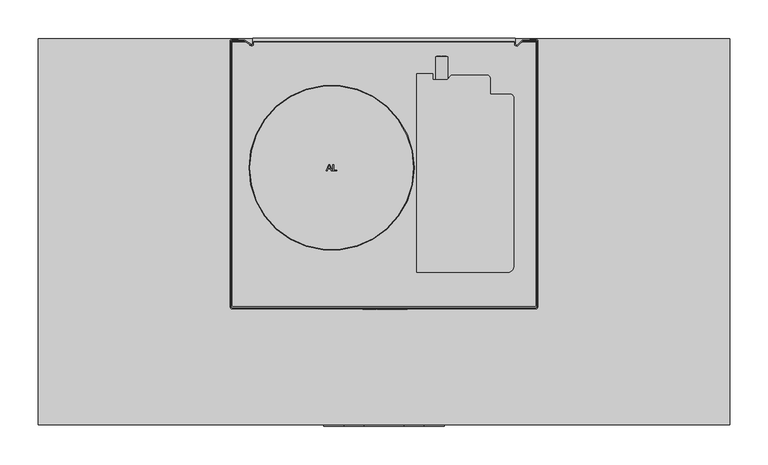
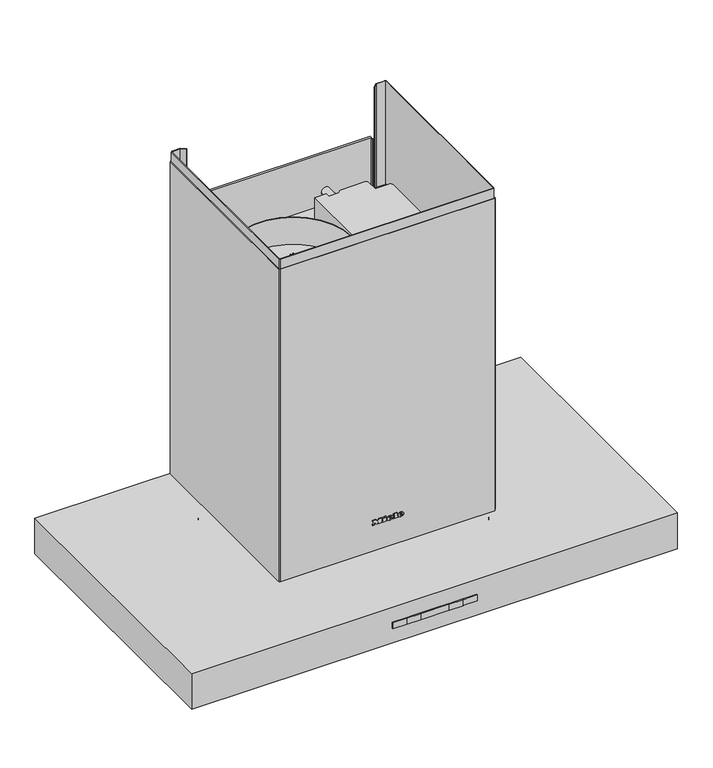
"""IFC4 building model written with IfcOpenShell, lengths in millimetres: proxy geometry, 12394330_CN_DA3984C_EDST : 28W3984S_CN_12394330_DA3984C_EDST."""

from ifc_helpers import new_model, si_unit, point, frame, frame_2d, origin, place, context, project, spatial, polyline, circle_curve, ellipse_curve, trimmed, segment, composite_curve, outline, extrude, faceted_brep, source, transform, mapped, element, save
from ifc_brep_helpers import plane_surface, cylinder_surface, revolved_surface, extruded_surface, advanced_brep


def specialty_equipment_1e91813d(model_context):
    return source(origin(), model_context, "Body", "SolidModel", [
        advanced_brep(
        [(23.6852279, -352.0, 168.4568113), (23.6852279, -352.0, 169.4163113), (30.0407279, -352.0, 169.4163113), (18.9827279, -352.0, 169.4163113), (21.5952279, -352.0, 166.2053113), (29.8792279, -352.0, 168.4568113), (27.0102279, -352.0, 168.4568113), (24.7492279, -352.0, 167.3928113), (23.6852279, -352.0, 170.6323113), (23.6852279, -352.0, 171.6678113), (25.3097279, -352.0, 171.6678113), (25.3097279, -352.0, 170.6323113), (23.6852279, -351.0, 168.4568113), (24.7492279, -351.0, 167.3928113), (27.0102279, -351.0, 168.4568113), (29.8792279, -351.0, 168.4568113), (21.5952279, -351.0, 166.2053113), (18.9827279, -351.0, 169.4163113), (30.0407279, -351.0, 169.4163113), (23.6852279, -351.0, 169.4163113), (23.6852279, -351.0, 170.6323113), (25.3097279, -351.0, 170.6323113), (25.3097279, -351.0, 171.6678113), (23.6852279, -351.0, 171.6678113)],
        [
            (0, 1),
            (1, 2),
            (2, 3, ellipse_curve(frame((24.5117279, -352.0, 169.4163113), z_axis=(0.0, -1.0, 0.0), x_axis=(-1.0, 0.0, 0.0)), 5.529, 4.5695)),
            (3, 4, circle_curve(frame((22.6592797, -352.0, 169.7393113), z_axis=(0.0, -1.0, 0.0), x_axis=(0.0, 0.0, -1.0)), 3.690713)),
            (4, 5, circle_curve(frame((24.4010453, -352.0, 172.2473113), z_axis=(0.0, -1.0, 0.0), x_axis=(0.0, 0.0, -1.0)), 6.6617096)),
            (5, 6),
            (6, 7, circle_curve(frame((25.2136102, -352.0, 169.3403113), z_axis=(0.0, 1.0, 0.0), x_axis=(0.0, 0.0, -1.0)), 2.0021007)),
            (7, 0, circle_curve(frame((24.7492279, -352.0, 168.4568113), z_axis=(0.0, 1.0, 0.0), x_axis=(0.0, 0.0, -1.0)), 1.064)),
            (8, 9),
            (9, 10, circle_curve(frame((24.4974779, -352.0, 171.6678113), z_axis=(0.0, 1.0, 0.0), x_axis=(0.0, 0.0, -1.0)), 0.81225)),
            (10, 11),
            (11, 8),
            (12, 13, circle_curve(frame((24.7492279, -351.0, 168.4568113), z_axis=(0.0, -1.0, 0.0), x_axis=(0.0, 0.0, -1.0)), 1.064)),
            (13, 14, circle_curve(frame((25.2136102, -351.0, 169.3403113), z_axis=(0.0, -1.0, 0.0), x_axis=(0.0, 0.0, -1.0)), 2.0021007)),
            (14, 15),
            (15, 16, circle_curve(frame((24.4010453, -351.0, 172.2473113), z_axis=(0.0, 1.0, 0.0), x_axis=(0.0, 0.0, -1.0)), 6.6617096)),
            (16, 17, circle_curve(frame((22.6592797, -351.0, 169.7393113), z_axis=(0.0, 1.0, 0.0), x_axis=(0.0, 0.0, -1.0)), 3.690713)),
            (17, 18, ellipse_curve(frame((24.5117279, -351.0, 169.4163113), z_axis=(0.0, 1.0, 0.0), x_axis=(-1.0, 0.0, 0.0)), 5.529, 4.5695)),
            (18, 19),
            (19, 12),
            (20, 21),
            (21, 22),
            (22, 23, circle_curve(frame((24.4974779, -351.0, 171.6678113), z_axis=(0.0, -1.0, 0.0), x_axis=(0.0, 0.0, -1.0)), 0.81225)),
            (23, 20),
            (0, 12),
            (19, 1),
            (18, 2),
            (5, 15),
            (14, 6),
            (17, 3),
            (13, 7),
            (16, 4),
            (8, 20),
            (23, 9),
            (22, 10),
            (21, 11),
        ],
        [
            plane_surface(frame((23.6852279, -352.0, 169.4163113), z_axis=(0.0, -1.0, 0.0), x_axis=(0.0, 0.0, 1.0))),
            plane_surface(frame((23.6852279, -351.0, 169.4163113), z_axis=(0.0, 1.0, 0.0), x_axis=(0.0, 0.0, -1.0))),
            plane_surface(frame((23.6852279, -352.0, 168.4568113), z_axis=(1.0, 0.0, 0.0), x_axis=(0.0, 1.0, 0.0))),
            plane_surface(frame((23.6852279, -352.0, 169.4163113), z_axis=(0.0, 0.0, -1.0), x_axis=(0.0, 1.0, 0.0))),
            plane_surface(frame((29.8792279, -352.0, 168.4568113), z_axis=(0.0, 0.0, 1.0), x_axis=(0.0, 1.0, 0.0))),
            extruded_surface(trimmed(ellipse_curve(frame((24.5117279, -350.0, 169.4163113), z_axis=(0.0, -1.0, 0.0), x_axis=(-1.0, 0.0, 0.0)), 5.529, 4.5695), [point((30.0407279, -350.0, 169.4163113))], [point((18.9827279, -350.0, 169.4163113))], True, "CARTESIAN"), (0.0, -1.0, 0.0), 1.0),
            revolved_surface(polyline([(25.2136102, -351.0, 167.3382106), (25.2136102, -352.0, 167.3382106)]), (25.2136102, -351.0, 169.3403113), (0.0, 1.0, 0.0)),
            revolved_surface(polyline([(24.7492279, -351.0, 167.3928113), (24.7492279, -352.0, 167.3928113)]), (24.7492279, -351.0, 168.4568113), (0.0, 1.0, 0.0)),
            cylinder_surface(frame((22.6592797, -351.0, 169.7393113), z_axis=(0.0, -1.0, 0.0), x_axis=(0.0, 0.0, -1.0)), 3.690713),
            cylinder_surface(frame((24.4010453, -351.0, 172.2473113), z_axis=(0.0, -1.0, 0.0), x_axis=(0.0, 0.0, -1.0)), 6.6617096),
            plane_surface(frame((23.6852279, -352.0, 170.6323113), z_axis=(1.0, 0.0, 0.0), x_axis=(0.0, 1.0, 0.0))),
            revolved_surface(polyline([(24.4974779, -351.0, 170.8555613), (24.4974779, -352.0, 170.8555613)]), (24.4974779, -351.0, 171.6678113), (0.0, 1.0, 0.0)),
            plane_surface(frame((25.3097279, -352.0, 171.6678113), z_axis=(-1.0, 0.0, 0.0), x_axis=(0.0, 1.0, 0.0))),
            plane_surface(frame((25.3097279, -352.0, 170.6323113), z_axis=(0.0, 0.0, 1.0), x_axis=(0.0, 1.0, 0.0))),
        ],
        [
            (0, [[1, 2, 3, 4, 5, 6, 7, 8], [9, 10, 11, 12]]),
            (1, [[13, 14, 15, 16, 17, 18, 19, 20], [21, 22, 23, 24]]),
            (2, [[-1, 25, -20, 26]]),
            (3, [[-2, -26, -19, 27]]),
            (4, [[-6, 28, -15, 29]]),
            (5, [[-3, -27, -18, 30]]),
            (6, [[-7, -29, -14, 31]]),
            (7, [[-8, -31, -13, -25]]),
            (8, [[-4, -30, -17, 32]]),
            (9, [[-5, -32, -16, -28]]),
            (10, [[-9, 33, -24, 34]]),
            (11, [[-10, -34, -23, 35]]),
            (12, [[-11, -35, -22, 36]]),
            (13, [[-12, -36, -21, -33]]),
        ],
    ),
        advanced_brep(
        [(3.8587279, -352.0, 168.4568113), (3.8587279, -352.0, 169.4163113), (10.2142279, -352.0, 169.4163113), (-0.8437721, -352.0, 169.4163113), (1.7687279, -352.0, 166.2053113), (10.0527279, -352.0, 168.4568113), (7.1837279, -352.0, 168.4568113), (4.9227279, -352.0, 167.3928113), (3.8587279, -352.0, 170.6323113), (3.8587279, -352.0, 171.6678113), (5.4832279, -352.0, 171.6678113), (5.4832279, -352.0, 170.6323113), (3.8587279, -351.0, 168.4568113), (4.9227279, -351.0, 167.3928113), (7.1837279, -351.0, 168.4568113), (10.0527279, -351.0, 168.4568113), (1.7687279, -351.0, 166.2053113), (-0.8437721, -351.0, 169.4163113), (10.2142279, -351.0, 169.4163113), (3.8587279, -351.0, 169.4163113), (3.8587279, -351.0, 170.6323113), (5.4832279, -351.0, 170.6323113), (5.4832279, -351.0, 171.6678113), (3.8587279, -351.0, 171.6678113)],
        [
            (0, 1),
            (1, 2),
            (2, 3, ellipse_curve(frame((4.6852279, -352.0, 169.4163113), z_axis=(0.0, -1.0, 0.0), x_axis=(-1.0, 0.0, 0.0)), 5.529, 4.5695)),
            (3, 4, circle_curve(frame((2.8327797, -352.0, 169.7393113), z_axis=(0.0, -1.0, 0.0), x_axis=(0.0, 0.0, -1.0)), 3.690713)),
            (4, 5, circle_curve(frame((4.5745453, -352.0, 172.2473113), z_axis=(0.0, -1.0, 0.0), x_axis=(0.0, 0.0, -1.0)), 6.6617096)),
            (5, 6),
            (6, 7, circle_curve(frame((5.3871102, -352.0, 169.3403113), z_axis=(0.0, 1.0, 0.0), x_axis=(0.0, 0.0, -1.0)), 2.0021007)),
            (7, 0, circle_curve(frame((4.9227279, -352.0, 168.4568113), z_axis=(0.0, 1.0, 0.0), x_axis=(0.0, 0.0, -1.0)), 1.064)),
            (8, 9),
            (9, 10, circle_curve(frame((4.6709779, -352.0, 171.6678113), z_axis=(0.0, 1.0, 0.0), x_axis=(0.0, 0.0, -1.0)), 0.81225)),
            (10, 11),
            (11, 8),
            (12, 13, circle_curve(frame((4.9227279, -351.0, 168.4568113), z_axis=(0.0, -1.0, 0.0), x_axis=(0.0, 0.0, -1.0)), 1.064)),
            (13, 14, circle_curve(frame((5.3871102, -351.0, 169.3403113), z_axis=(0.0, -1.0, 0.0), x_axis=(0.0, 0.0, -1.0)), 2.0021007)),
            (14, 15),
            (15, 16, circle_curve(frame((4.5745453, -351.0, 172.2473113), z_axis=(0.0, 1.0, 0.0), x_axis=(0.0, 0.0, -1.0)), 6.6617096)),
            (16, 17, circle_curve(frame((2.8327797, -351.0, 169.7393113), z_axis=(0.0, 1.0, 0.0), x_axis=(0.0, 0.0, -1.0)), 3.690713)),
            (17, 18, ellipse_curve(frame((4.6852279, -351.0, 169.4163113), z_axis=(0.0, 1.0, 0.0), x_axis=(-1.0, 0.0, 0.0)), 5.529, 4.5695)),
            (18, 19),
            (19, 12),
            (20, 21),
            (21, 22),
            (22, 23, circle_curve(frame((4.6709779, -351.0, 171.6678113), z_axis=(0.0, -1.0, 0.0), x_axis=(0.0, 0.0, -1.0)), 0.81225)),
            (23, 20),
            (0, 12),
            (19, 1),
            (18, 2),
            (5, 15),
            (14, 6),
            (17, 3),
            (13, 7),
            (16, 4),
            (8, 20),
            (23, 9),
            (22, 10),
            (21, 11),
        ],
        [
            plane_surface(frame((3.8587279, -352.0, 169.4163113), z_axis=(0.0, -1.0, 0.0), x_axis=(0.0, 0.0, 1.0))),
            plane_surface(frame((3.8587279, -351.0, 169.4163113), z_axis=(0.0, 1.0, 0.0), x_axis=(0.0, 0.0, -1.0))),
            plane_surface(frame((3.8587279, -352.0, 168.4568113), z_axis=(1.0, 0.0, 0.0), x_axis=(0.0, 1.0, 0.0))),
            plane_surface(frame((3.8587279, -352.0, 169.4163113), z_axis=(0.0, 0.0, -1.0), x_axis=(0.0, 1.0, 0.0))),
            plane_surface(frame((10.0527279, -352.0, 168.4568113), z_axis=(0.0, 0.0, 1.0), x_axis=(0.0, 1.0, 0.0))),
            extruded_surface(trimmed(ellipse_curve(frame((4.6852279, -350.0, 169.4163113), z_axis=(0.0, -1.0, 0.0), x_axis=(-1.0, 0.0, 0.0)), 5.529, 4.5695), [point((10.2142279, -350.0, 169.4163113))], [point((-0.8437721, -350.0, 169.4163113))], True, "CARTESIAN"), (0.0, -1.0, 0.0), 1.0),
            revolved_surface(polyline([(5.3871102, -351.0, 167.3382106), (5.3871102, -352.0, 167.3382106)]), (5.3871102, -351.0, 169.3403113), (0.0, 1.0, 0.0)),
            revolved_surface(polyline([(4.9227279, -351.0, 167.3928113), (4.9227279, -352.0, 167.3928113)]), (4.9227279, -351.0, 168.4568113), (0.0, 1.0, 0.0)),
            cylinder_surface(frame((2.8327797, -351.0, 169.7393113), z_axis=(0.0, -1.0, 0.0), x_axis=(0.0, 0.0, -1.0)), 3.690713),
            cylinder_surface(frame((4.5745453, -351.0, 172.2473113), z_axis=(0.0, -1.0, 0.0), x_axis=(0.0, 0.0, -1.0)), 6.6617096),
            plane_surface(frame((3.8587279, -352.0, 170.6323113), z_axis=(1.0, 0.0, 0.0), x_axis=(0.0, 1.0, 0.0))),
            revolved_surface(polyline([(4.6709779, -351.0, 170.8555613), (4.6709779, -352.0, 170.8555613)]), (4.6709779, -351.0, 171.6678113), (0.0, 1.0, 0.0)),
            plane_surface(frame((5.4832279, -352.0, 171.6678113), z_axis=(-1.0, 0.0, 0.0), x_axis=(0.0, 1.0, 0.0))),
            plane_surface(frame((5.4832279, -352.0, 170.6323113), z_axis=(0.0, 0.0, 1.0), x_axis=(0.0, 1.0, 0.0))),
        ],
        [
            (0, [[1, 2, 3, 4, 5, 6, 7, 8], [9, 10, 11, 12]]),
            (1, [[13, 14, 15, 16, 17, 18, 19, 20], [21, 22, 23, 24]]),
            (2, [[-1, 25, -20, 26]]),
            (3, [[-2, -26, -19, 27]]),
            (4, [[-6, 28, -15, 29]]),
            (5, [[-3, -27, -18, 30]]),
            (6, [[-7, -29, -14, 31]]),
            (7, [[-8, -31, -13, -25]]),
            (8, [[-4, -30, -17, 32]]),
            (9, [[-5, -32, -16, -28]]),
            (10, [[-9, 33, -24, 34]]),
            (11, [[-10, -34, -23, 35]]),
            (12, [[-11, -35, -22, 36]]),
            (13, [[-12, -36, -21, -33]]),
        ],
    ),
        extrude(outline(polyline([(175.1448113, -6.5247721), (173.6058113, -5.8027721), (175.1068113, -2.5822721), (176.6458113, -3.2947721), (175.1448113, -6.5247721)])), frame((0.0, -352.0, 0.0), z_axis=(0.0, 1.0, 0.0), x_axis=(0.0, 0.0, 1.0)), (0.0, 0.0, 1.0), 1.0),
        extrude(outline(polyline([(173.3968113, -8.8712721), (171.6963113, -8.8712721), (171.6963113, -7.7407721), (167.8013113, -7.7407721), (167.8013113, -8.8712721), (166.2053113, -8.8712721), (166.2053113, -1.3757721), (167.8013113, -1.3757721), (167.8013113, -2.4777721), (173.3968113, -2.4777721), (173.3968113, -8.8712721)])), frame((0.0, -352.0, 0.0), z_axis=(0.0, 1.0, 0.0), x_axis=(0.0, 0.0, 1.0)), (0.0, 0.0, 1.0), 1.0),
        extrude(outline(polyline([(174.1568113, 10.7462279), (174.1568113, 11.8862279), (167.8013113, 11.8862279), (167.8013113, 10.7462279), (166.2053113, 10.7462279), (166.2053113, 18.4507279), (167.8013113, 18.4507279), (167.8013113, 17.2822279), (175.7053113, 17.2822279), (175.7053113, 10.7462279), (174.1568113, 10.7462279)])), frame((0.0, -352.0, 0.0), z_axis=(0.0, 1.0, 0.0), x_axis=(0.0, 0.0, 1.0)), (0.0, 0.0, 1.0), 1.0),
        extrude(outline(polyline([(174.1568113, -27.8047721), (174.1568113, -26.6552721), (167.8013113, -26.6552721), (167.8013113, -27.8047721), (166.2053113, -27.8047721), (166.2053113, -23.6247721), (167.8013113, -23.6247721), (167.8013113, -24.7647721), (171.832936, -24.7647721), (166.2053113, -20.5182721), (171.9580336, -16.2527721), (167.8013113, -16.2527721), (167.8013113, -17.4212721), (166.2053113, -17.4212721), (166.2053113, -9.8402721), (167.8013113, -9.8402721), (167.8013113, -11.0467721), (174.1568113, -11.0467721), (174.1568113, -9.8402721), (175.7053113, -9.8402721), (175.7053113, -15.6257721), (172.1428113, -18.3997721), (175.7053113, -21.1832721), (175.7053113, -27.8047721), (174.1568113, -27.8047721)])), frame((0.0, -352.0, 0.0), z_axis=(0.0, 1.0, 0.0), x_axis=(0.0, 0.0, 1.0)), (0.0, 0.0, 1.0), 1.0),
        advanced_brep(
        [(18.9305092, -47.3306759, 18.5939288), (18.9305092, -47.7346759, 19.2936773), (24.2825092, -47.7346759, 19.2936773), (14.9705092, -47.7346759, 19.2936773), (17.1705092, -46.3826759, 16.9519447), (24.1465092, -47.3306759, 18.5939288), (21.7305092, -47.3306759, 18.5939288), (19.8265092, -46.8826759, 17.8179701), (18.9305092, -48.2466759, 20.1804874), (18.9305092, -48.6826759, 20.9356615), (20.2985092, -48.6826759, 20.9356615), (20.2985092, -48.2466759, 20.1804874), (18.9305092, -46.4646505, 19.0939288), (19.8265092, -46.0166505, 18.3179701), (21.7305092, -46.4646505, 19.0939288), (24.1465092, -46.4646505, 19.0939288), (17.1705092, -45.5166505, 17.4519447), (14.9705092, -46.8686505, 19.7936773), (24.2825092, -46.8686505, 19.7936773), (18.9305092, -46.8686505, 19.7936773), (18.9305092, -47.3806505, 20.6804874), (20.2985092, -47.3806505, 20.6804874), (20.2985092, -47.8166505, 21.4356615), (18.9305092, -47.8166505, 21.4356615)],
        [
            (0, 1),
            (1, 2),
            (2, 3, ellipse_curve(frame((19.6265092, -47.7346759, 19.2936773), z_axis=(0.0, -0.8660254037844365, -0.5000000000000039), x_axis=(-1.0, 0.0, 0.0)), 4.656, 3.848)),
            (3, 4, circle_curve(frame((18.0665529, -47.8706759, 19.5292363), z_axis=(0.0, -0.8660254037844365, -0.5000000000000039), x_axis=(0.0, 0.5000000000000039, -0.8660254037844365)), 3.1079688)),
            (4, 5, circle_curve(frame((19.5333028, -48.9266759, 21.3582819), z_axis=(0.0, -0.8660254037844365, -0.5000000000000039), x_axis=(0.0, 0.5000000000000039, -0.8660254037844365)), 5.6098607)),
            (5, 6),
            (6, 7, circle_curve(frame((20.217568, -47.7026759, 19.2382517), z_axis=(0.0, 0.8660254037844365, 0.5000000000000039), x_axis=(0.0, 0.5000000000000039, -0.8660254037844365)), 1.6859795)),
            (7, 0, circle_curve(frame((19.8265092, -47.3306759, 18.5939288), z_axis=(0.0, 0.8660254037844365, 0.5000000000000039), x_axis=(0.0, 0.5000000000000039, -0.8660254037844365)), 0.896)),
            (8, 9),
            (9, 10, circle_curve(frame((19.6145092, -48.6826759, 20.9356615), z_axis=(0.0, 0.8660254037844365, 0.5000000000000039), x_axis=(0.0, 0.5000000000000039, -0.8660254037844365)), 0.684)),
            (10, 11),
            (11, 8),
            (12, 13, circle_curve(frame((19.8265092, -46.4646505, 19.0939288), z_axis=(0.0, -0.8660254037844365, -0.5000000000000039), x_axis=(0.0, 0.5000000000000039, -0.8660254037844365)), 0.896)),
            (13, 14, circle_curve(frame((20.217568, -46.8366505, 19.7382517), z_axis=(0.0, -0.8660254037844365, -0.5000000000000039), x_axis=(0.0, 0.5000000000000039, -0.8660254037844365)), 1.6859795)),
            (14, 15),
            (15, 16, circle_curve(frame((19.5333028, -48.0606505, 21.8582819), z_axis=(0.0, 0.8660254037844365, 0.5000000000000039), x_axis=(0.0, 0.5000000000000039, -0.8660254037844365)), 5.6098607)),
            (16, 17, circle_curve(frame((18.0665529, -47.0046505, 20.0292363), z_axis=(0.0, 0.8660254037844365, 0.5000000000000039), x_axis=(0.0, 0.5000000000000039, -0.8660254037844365)), 3.1079688)),
            (17, 18, ellipse_curve(frame((19.6265092, -46.8686505, 19.7936773), z_axis=(0.0, 0.8660254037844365, 0.5000000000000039), x_axis=(-1.0, 0.0, 0.0)), 4.656, 3.848)),
            (18, 19),
            (19, 12),
            (20, 21),
            (21, 22),
            (22, 23, circle_curve(frame((19.6145092, -47.8166505, 21.4356615), z_axis=(0.0, -0.8660254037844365, -0.5000000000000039), x_axis=(0.0, 0.5000000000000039, -0.8660254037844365)), 0.684)),
            (23, 20),
            (0, 12),
            (19, 1),
            (18, 2),
            (5, 15),
            (14, 6),
            (17, 3),
            (13, 7),
            (16, 4),
            (8, 20),
            (23, 9),
            (22, 10),
            (21, 11),
        ],
        [
            plane_surface(frame((18.9305092, -47.7346759, 19.2936773), z_axis=(0.0, -0.8660254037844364, -0.5000000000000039), x_axis=(0.0, -0.5000000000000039, 0.8660254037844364))),
            plane_surface(frame((18.9305092, -46.8686505, 19.7936773), z_axis=(0.0, 0.8660254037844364, 0.5000000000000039), x_axis=(0.0, 0.5000000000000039, -0.8660254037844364))),
            plane_surface(frame((18.9305092, -47.3306759, 18.5939288), z_axis=(1.0, 0.0, 0.0), x_axis=(0.0, 0.866025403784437, 0.5000000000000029))),
            plane_surface(frame((18.9305092, -47.7346759, 19.2936773), z_axis=(0.0, 0.5000000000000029, -0.866025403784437), x_axis=(0.0, 0.866025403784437, 0.5000000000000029))),
            plane_surface(frame((24.1465092, -47.3306759, 18.5939288), z_axis=(0.0, -0.5000000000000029, 0.866025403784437), x_axis=(0.0, 0.866025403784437, 0.5000000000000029))),
            extruded_surface(trimmed(ellipse_curve(frame((19.6265092, -46.0026251, 20.2936773), z_axis=(0.0, -0.8660254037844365, -0.5000000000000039), x_axis=(-1.0, 0.0, 0.0)), 4.656, 3.848), [point((24.2825092, -46.0026251, 20.2936773))], [point((14.9705092, -46.0026251, 20.2936773))], True, "CARTESIAN"), (0.0, -0.8660253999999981, -0.5), 0.9999999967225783),
            revolved_surface(polyline([(20.217568, -45.9936607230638, 18.278150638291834), (20.217568, -46.859686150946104, 17.77815062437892)]), (20.217568, -46.8366505, 19.7382517), (0.0, 0.8660254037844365, 0.5000000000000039)),
            revolved_surface(polyline([(19.8265092, -46.01665047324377, 18.317970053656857), (19.8265092, -46.88267590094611, 17.81797003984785)]), (19.8265092, -46.4646505, 19.0939288), (0.0, 0.8660254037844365, 0.5000000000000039)),
            cylinder_surface(frame((18.0665529, -47.0046505, 20.0292363), z_axis=(0.0, -0.8660254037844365, -0.5000000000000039), x_axis=(0.0, 0.5000000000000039, -0.8660254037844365)), 3.1079688),
            cylinder_surface(frame((19.5333028, -48.0606505, 21.8582819), z_axis=(0.0, -0.8660254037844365, -0.5000000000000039), x_axis=(0.0, 0.5000000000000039, -0.8660254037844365)), 5.6098607),
            plane_surface(frame((18.9305092, -48.2466759, 20.1804874), z_axis=(1.0, 0.0, 0.0), x_axis=(0.0, 0.8660254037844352, 0.500000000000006))),
            revolved_surface(polyline([(19.6145092, -47.474650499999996, 20.843300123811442), (19.6145092, -48.3406759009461, 20.34330012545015)]), (19.6145092, -47.8166505, 21.4356615), (0.0, 0.8660254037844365, 0.5000000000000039)),
            plane_surface(frame((20.2985092, -48.6826759, 20.9356615), z_axis=(-1.0, 0.0, 0.0), x_axis=(0.0, 0.8660254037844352, 0.500000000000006))),
            plane_surface(frame((20.2985092, -48.2466759, 20.1804874), z_axis=(0.0, -0.500000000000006, 0.8660254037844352), x_axis=(0.0, 0.8660254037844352, 0.500000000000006))),
        ],
        [
            (0, [[1, 2, 3, 4, 5, 6, 7, 8], [9, 10, 11, 12]]),
            (1, [[13, 14, 15, 16, 17, 18, 19, 20], [21, 22, 23, 24]]),
            (2, [[-1, 25, -20, 26]]),
            (3, [[-2, -26, -19, 27]]),
            (4, [[-6, 28, -15, 29]]),
            (5, [[-3, -27, -18, 30]]),
            (6, [[-7, -29, -14, 31]]),
            (7, [[-8, -31, -13, -25]]),
            (8, [[-4, -30, -17, 32]]),
            (9, [[-5, -32, -16, -28]]),
            (10, [[-9, 33, -24, 34]]),
            (11, [[-10, -34, -23, 35]]),
            (12, [[-11, -35, -22, 36]]),
            (13, [[-12, -36, -21, -33]]),
        ],
    ),
        advanced_brep(
        [(2.2345092, -47.3306759, 18.5939288), (2.2345092, -47.7346759, 19.2936773), (7.5865092, -47.7346759, 19.2936773), (-1.7254908, -47.7346759, 19.2936773), (0.4745092, -46.3826759, 16.9519447), (7.4505092, -47.3306759, 18.5939288), (5.0345092, -47.3306759, 18.5939288), (3.1305092, -46.8826759, 17.8179701), (2.2345092, -48.2466759, 20.1804874), (2.2345092, -48.6826759, 20.9356615), (3.6025092, -48.6826759, 20.9356615), (3.6025092, -48.2466759, 20.1804874), (2.2345092, -46.4646505, 19.0939288), (3.1305092, -46.0166505, 18.3179701), (5.0345092, -46.4646505, 19.0939288), (7.4505092, -46.4646505, 19.0939288), (0.4745092, -45.5166505, 17.4519447), (-1.7254908, -46.8686505, 19.7936773), (7.5865092, -46.8686505, 19.7936773), (2.2345092, -46.8686505, 19.7936773), (2.2345092, -47.3806505, 20.6804874), (3.6025092, -47.3806505, 20.6804874), (3.6025092, -47.8166505, 21.4356615), (2.2345092, -47.8166505, 21.4356615)],
        [
            (0, 1),
            (1, 2),
            (2, 3, ellipse_curve(frame((2.9305092, -47.7346759, 19.2936773), z_axis=(0.0, -0.8660254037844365, -0.5000000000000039), x_axis=(-1.0, 0.0, 0.0)), 4.656, 3.848)),
            (3, 4, circle_curve(frame((1.3705529, -47.8706759, 19.5292363), z_axis=(0.0, -0.8660254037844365, -0.5000000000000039), x_axis=(0.0, 0.5000000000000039, -0.8660254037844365)), 3.1079688)),
            (4, 5, circle_curve(frame((2.8373028, -48.9266759, 21.3582819), z_axis=(0.0, -0.8660254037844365, -0.5000000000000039), x_axis=(0.0, 0.5000000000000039, -0.8660254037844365)), 5.6098607)),
            (5, 6),
            (6, 7, circle_curve(frame((3.521568, -47.7026759, 19.2382517), z_axis=(0.0, 0.8660254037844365, 0.5000000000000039), x_axis=(0.0, 0.5000000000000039, -0.8660254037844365)), 1.6859795)),
            (7, 0, circle_curve(frame((3.1305092, -47.3306759, 18.5939288), z_axis=(0.0, 0.8660254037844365, 0.5000000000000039), x_axis=(0.0, 0.5000000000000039, -0.8660254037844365)), 0.896)),
            (8, 9),
            (9, 10, circle_curve(frame((2.9185092, -48.6826759, 20.9356615), z_axis=(0.0, 0.8660254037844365, 0.5000000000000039), x_axis=(0.0, 0.5000000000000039, -0.8660254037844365)), 0.684)),
            (10, 11),
            (11, 8),
            (12, 13, circle_curve(frame((3.1305092, -46.4646505, 19.0939288), z_axis=(0.0, -0.8660254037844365, -0.5000000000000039), x_axis=(0.0, 0.5000000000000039, -0.8660254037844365)), 0.896)),
            (13, 14, circle_curve(frame((3.521568, -46.8366505, 19.7382517), z_axis=(0.0, -0.8660254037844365, -0.5000000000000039), x_axis=(0.0, 0.5000000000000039, -0.8660254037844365)), 1.6859795)),
            (14, 15),
            (15, 16, circle_curve(frame((2.8373028, -48.0606505, 21.8582819), z_axis=(0.0, 0.8660254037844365, 0.5000000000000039), x_axis=(0.0, 0.5000000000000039, -0.8660254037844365)), 5.6098607)),
            (16, 17, circle_curve(frame((1.3705529, -47.0046505, 20.0292363), z_axis=(0.0, 0.8660254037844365, 0.5000000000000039), x_axis=(0.0, 0.5000000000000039, -0.8660254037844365)), 3.1079688)),
            (17, 18, ellipse_curve(frame((2.9305092, -46.8686505, 19.7936773), z_axis=(0.0, 0.8660254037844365, 0.5000000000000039), x_axis=(-1.0, 0.0, 0.0)), 4.656, 3.848)),
            (18, 19),
            (19, 12),
            (20, 21),
            (21, 22),
            (22, 23, circle_curve(frame((2.9185092, -47.8166505, 21.4356615), z_axis=(0.0, -0.8660254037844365, -0.5000000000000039), x_axis=(0.0, 0.5000000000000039, -0.8660254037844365)), 0.684)),
            (23, 20),
            (0, 12),
            (19, 1),
            (18, 2),
            (5, 15),
            (14, 6),
            (17, 3),
            (13, 7),
            (16, 4),
            (8, 20),
            (23, 9),
            (22, 10),
            (21, 11),
        ],
        [
            plane_surface(frame((2.2345092, -47.7346759, 19.2936773), z_axis=(0.0, -0.8660254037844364, -0.5000000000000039), x_axis=(0.0, -0.5000000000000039, 0.8660254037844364))),
            plane_surface(frame((2.2345092, -46.8686505, 19.7936773), z_axis=(0.0, 0.8660254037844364, 0.5000000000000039), x_axis=(0.0, 0.5000000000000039, -0.8660254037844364))),
            plane_surface(frame((2.2345092, -47.3306759, 18.5939288), z_axis=(1.0, 0.0, 0.0), x_axis=(0.0, 0.866025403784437, 0.5000000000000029))),
            plane_surface(frame((2.2345092, -47.7346759, 19.2936773), z_axis=(0.0, 0.5000000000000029, -0.866025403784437), x_axis=(0.0, 0.866025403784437, 0.5000000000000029))),
            plane_surface(frame((7.4505092, -47.3306759, 18.5939288), z_axis=(0.0, -0.5000000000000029, 0.866025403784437), x_axis=(0.0, 0.866025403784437, 0.5000000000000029))),
            extruded_surface(trimmed(ellipse_curve(frame((2.9305092, -46.0026251, 20.2936773), z_axis=(0.0, -0.8660254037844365, -0.5000000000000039), x_axis=(-1.0, 0.0, 0.0)), 4.656, 3.848), [point((7.5865092, -46.0026251, 20.2936773))], [point((-1.7254908, -46.0026251, 20.2936773))], True, "CARTESIAN"), (0.0, -0.8660253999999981, -0.5), 0.9999999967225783),
            revolved_surface(polyline([(3.521568, -45.9936607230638, 18.278150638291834), (3.521568, -46.859686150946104, 17.77815062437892)]), (3.521568, -46.8366505, 19.7382517), (0.0, 0.8660254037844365, 0.5000000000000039)),
            revolved_surface(polyline([(3.1305092, -46.01665047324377, 18.317970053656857), (3.1305092, -46.88267590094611, 17.81797003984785)]), (3.1305092, -46.4646505, 19.0939288), (0.0, 0.8660254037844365, 0.5000000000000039)),
            cylinder_surface(frame((1.3705529, -47.0046505, 20.0292363), z_axis=(0.0, -0.8660254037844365, -0.5000000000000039), x_axis=(0.0, 0.5000000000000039, -0.8660254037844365)), 3.1079688),
            cylinder_surface(frame((2.8373028, -48.0606505, 21.8582819), z_axis=(0.0, -0.8660254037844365, -0.5000000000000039), x_axis=(0.0, 0.5000000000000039, -0.8660254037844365)), 5.6098607),
            plane_surface(frame((2.2345092, -48.2466759, 20.1804874), z_axis=(1.0, 0.0, 0.0), x_axis=(0.0, 0.8660254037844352, 0.500000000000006))),
            revolved_surface(polyline([(2.9185092, -47.474650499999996, 20.843300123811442), (2.9185092, -48.3406759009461, 20.34330012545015)]), (2.9185092, -47.8166505, 21.4356615), (0.0, 0.8660254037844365, 0.5000000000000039)),
            plane_surface(frame((3.6025092, -48.6826759, 20.9356615), z_axis=(-1.0, 0.0, 0.0), x_axis=(0.0, 0.8660254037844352, 0.500000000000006))),
            plane_surface(frame((3.6025092, -48.2466759, 20.1804874), z_axis=(0.0, -0.500000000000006, 0.8660254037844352), x_axis=(0.0, 0.8660254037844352, 0.500000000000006))),
        ],
        [
            (0, [[1, 2, 3, 4, 5, 6, 7, 8], [9, 10, 11, 12]]),
            (1, [[13, 14, 15, 16, 17, 18, 19, 20], [21, 22, 23, 24]]),
            (2, [[-1, 25, -20, 26]]),
            (3, [[-2, -26, -19, 27]]),
            (4, [[-6, 28, -15, 29]]),
            (5, [[-3, -27, -18, 30]]),
            (6, [[-7, -29, -14, 31]]),
            (7, [[-8, -31, -13, -25]]),
            (8, [[-4, -30, -17, 32]]),
            (9, [[-5, -32, -16, -28]]),
            (10, [[-9, 33, -24, 34]]),
            (11, [[-10, -34, -23, 35]]),
            (12, [[-11, -35, -22, 36]]),
            (13, [[-12, -36, -21, -33]]),
        ],
    ),
        extrude(outline(polyline([(0.0, 0.0), (1.4315306, 0.0), (1.4390415, -2.9920868), (0.0109086, -2.9993294), (0.0, 0.0)])), frame((-6.5094908, -50.1466759, 23.4713839), z_axis=(0.0, 0.8660254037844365, 0.5000000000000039), x_axis=(0.42472021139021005, 0.45266233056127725, -0.7840341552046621)), (0.0, 0.0, 1.0), 1.0),
        extrude(outline(polyline([(0.4933908, 2.4141097), (1.7898157, 3.022309), (2.1941493, 2.16044), (5.1636142, 3.5535222), (4.7592806, 4.4153913), (5.9760369, 4.9862153), (8.6568709, -0.728194), (7.4401145, -1.2990179), (7.0459742, -0.4588767), (2.7800844, -2.4601583), (0.4933908, 2.4141097)])), frame((-6.5094908, -50.1466759, 23.4713839), z_axis=(0.0, 0.8660254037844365, 0.5000000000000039), x_axis=(0.42472021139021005, 0.45266233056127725, -0.7840341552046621)), (0.0, 0.0, 1.0), 1.0),
        extrude(outline(polyline([(0.0, 0.0), (0.96, 0.0), (0.96, 5.352), (0.0, 5.352), (0.0, 6.696), (6.488, 6.696), (6.488, 5.352), (5.504, 5.352), (5.504, -1.304), (0.0, -1.304), (0.0, 0.0)])), frame((8.0345092, -49.7306759, 22.7508508), z_axis=(0.0, 0.8660254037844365, 0.5000000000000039), x_axis=(1.0, 0.0, 0.0)), (0.0, 0.0, 1.0), 1.0),
        extrude(outline(polyline([(0.0, 0.0), (0.968, 0.0), (0.968, 5.352), (0.0, 5.352), (0.0, 6.696), (3.52, 6.696), (3.52, 5.352), (2.56, 5.352), (2.56, 1.9488753), (6.136, 6.696), (9.728, 1.8807777), (9.728, 5.352), (8.744, 5.352), (8.744, 6.696), (15.128, 6.696), (15.128, 5.352), (14.112, 5.352), (14.112, 0.0), (15.128, 0.0), (15.128, -1.304), (10.256, -1.304), (7.92, 1.696), (5.576, -1.304), (0.0, -1.304), (0.0, 0.0)])), frame((-24.4294908, -49.7306759, 22.7508508), z_axis=(0.0, 0.8660254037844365, 0.5000000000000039), x_axis=(1.0, 0.0, 0.0)), (0.0, 0.0, 1.0), 1.0),
        extrude(outline(polyline([(-55.7440114, 54.1276391), (-333.6230694, 87.7389056), (-209.2028277, 151.8013376), (-91.9090784, 138.8457628), (-55.7440114, 54.1276391)])), frame((-185.7843366, 0.0, 0.0), z_axis=(1.0, 0.0, 0.0), x_axis=(0.0, 1.0, 0.0)), (0.0, 0.0, 1.0), 2.8052721),
        extrude(outline(polyline([(-55.7440114, 54.1276391), (-335.7102574, 87.9913644), (-211.3250692, 152.0357478), (-91.9090784, 138.8457628), (-55.7440114, 54.1276391)])), frame((182.9790645, 0.0, 0.0), z_axis=(1.0, 0.0, 0.0), x_axis=(0.0, 1.0, 0.0)), (0.0, 0.0, 1.0), 2.8052721),
        extrude(outline(polyline([(-157.833038, 141.0969262), (-217.2416545, 147.6588511), (-335.373857, 87.3779566), (-336.098342, 88.7977267), (-207.2770963, 154.5330619), (-89.0531958, 143.0866062), (-54.0532856, 61.0284981), (-60.4060582, 54.6757255), (-157.833038, 141.0969262)])), frame((-182.9790645, 0.0, 0.0), z_axis=(1.0, 0.0, 0.0), x_axis=(0.0, 1.0, 0.0)), (0.0, 0.0, 1.0), 365.958129),
        extrude(outline(composite_curve([segment(polyline([(30.0000001, -30.0), (30.0000001, -370.0003152)]), True, "CONTINUOUS"), segment(trimmed(circle_curve(frame_2d((0.0, -370.0003152)), 30.0), [point((30.0000001, -370.0003152))], [point((0.0, -400.0003152))], False, "CARTESIAN"), True, "CONTINUOUS"), segment(polyline([(0.0, -400.0003152), (-273.3966003, -400.0003152)]), True, "CONTINUOUS"), segment(trimmed(circle_curve(frame_2d((-273.3966003, -390.0003152)), 10.0), [point((-273.3966003, -400.0003152))], [point((-283.3966003, -390.0003152))], False, "CARTESIAN"), True, "CONTINUOUS"), segment(polyline([(-283.3966003, -390.0003152), (-283.3966003, -10.0)]), True, "CONTINUOUS"), segment(trimmed(circle_curve(frame_2d((-273.3966003, -10.0)), 10.0), [point((-283.3966003, -10.0))], [point((-273.3966003, 0.0))], False, "CARTESIAN"), True, "CONTINUOUS"), segment(polyline([(-273.3966003, 0.0), (0.0, 0.0)]), True, "CONTINUOUS"), segment(trimmed(circle_curve(frame_2d((0.0, -30.0)), 30.0), [point((0.0, 0.0))], [point((30.0000001, -30.0))], False, "CARTESIAN"), True, "CONTINUOUS")], self_intersect=False), holes=[composite_curve([segment(trimmed(circle_curve(frame_2d((2.9772979, -24.215821)), 10.0), [point((12.9772979, -24.215821))], [point((2.9772979, -14.215821))], True, "CARTESIAN"), True, "CONTINUOUS"), segment(polyline([(2.9772979, -14.215821), (-253.3966002, -14.215821)]), True, "CONTINUOUS"), segment(trimmed(circle_curve(frame_2d((-253.3966002, -24.215821)), 10.0), [point((-253.3966002, -14.215821))], [point((-263.3966002, -24.215821))], True, "CARTESIAN"), True, "CONTINUOUS"), segment(polyline([(-263.3966002, -24.215821), (-263.3966002, -375.7844942)]), True, "CONTINUOUS"), segment(trimmed(circle_curve(frame_2d((-253.3966002, -375.7844942)), 10.0), [point((-263.3966002, -375.7844942))], [point((-253.3966002, -385.7844942))], True, "CARTESIAN"), True, "CONTINUOUS"), segment(polyline([(-253.3966002, -385.7844942), (2.9772979, -385.7844942)]), True, "CONTINUOUS"), segment(trimmed(circle_curve(frame_2d((2.9772979, -375.7844942)), 10.0), [point((2.9772979, -385.7844942))], [point((12.9772979, -375.7844942))], True, "CARTESIAN"), True, "CONTINUOUS"), segment(polyline([(12.9772979, -375.7844942), (12.9772979, -24.215821)]), True, "CONTINUOUS")], self_intersect=False)]), frame((200.0001576, -322.8111682, 86.4193664), z_axis=(0.0, 0.12186934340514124, 0.9925461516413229), x_axis=(0.0, -0.9925461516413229, 0.12186934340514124)), (0.0, 0.0, 1.0), 6.1579492),
        extrude(outline(polyline([(119.0500031, -468.3999939), (119.0500031, -481.0), (-119.0499954, -481.0), (-119.0499954, -468.3999939), (119.0500031, -468.3999939)])), frame((0.0, 0.0, 43.0), z_axis=(0.0, 0.0, 1.0), x_axis=(1.0, 0.0, 0.0)), (0.0, 0.0, 1.0), 2.0),
        extrude(outline(polyline([(125.0000076, -461.7000122), (125.0000076, -487.7000122), (-125.0000076, -487.7000122), (-125.0000076, -461.7000122), (125.0000076, -461.7000122)]), holes=[polyline([(119.0500031, -468.3999939), (-119.0499954, -468.3999939), (-119.0499954, -481.0), (119.0500031, -481.0), (119.0500031, -468.3999939)])]), frame((0.0, 0.0, 43.0), z_axis=(0.0, 0.0, 1.0), x_axis=(1.0, 0.0, 0.0)), (0.0, 0.0, 1.0), 2.0),
        extrude(outline(polyline([(-52.3264081, -503.6199951), (-78.3499985, -503.6199951), (-78.3499985, -501.7000122), (-52.3264081, -501.7000122), (-52.3264081, -503.6199951)])), frame((0.0, 0.0, 73.8999996), z_axis=(0.0, 0.0, 1.0), x_axis=(1.0, 0.0, 0.0)), (0.0, 0.0, 1.0), 11.7000027),
        extrude(outline(polyline([(78.3499985, -503.6199951), (52.3264081, -503.6199951), (52.3264081, -501.7000122), (78.3499985, -501.7000122), (78.3499985, -503.6199951)])), frame((0.0, 0.0, 73.8999996), z_axis=(0.0, 0.0, 1.0), x_axis=(1.0, 0.0, 0.0)), (0.0, 0.0, 1.0), 11.7000027),
        extrude(outline(polyline([(-26.233604, -503.6199951), (-52.0212045, -503.6199951), (-52.0212045, -501.7000122), (-26.233604, -501.7000122), (-26.233604, -503.6199951)])), frame((0.0, 0.0, 73.8999996), z_axis=(0.0, 0.0, 1.0), x_axis=(1.0, 0.0, 0.0)), (0.0, 0.0, 1.0), 11.7000027),
        extrude(outline(polyline([(52.0212045, -503.6199951), (26.233604, -503.6199951), (26.233604, -501.7000122), (52.0212045, -501.7000122), (52.0212045, -503.6199951)])), frame((0.0, 0.0, 73.8999996), z_axis=(0.0, 0.0, 1.0), x_axis=(1.0, 0.0, 0.0)), (0.0, 0.0, 1.0), 11.7000027),
        extrude(outline(polyline([(25.8177962, -503.6199951), (-25.94033, -503.6199951), (-25.94033, -501.7000122), (25.8177962, -501.7000122), (25.8177962, -503.6199951)])), frame((0.0, 0.0, 73.8999996), z_axis=(0.0, 0.0, 1.0), x_axis=(1.0, 0.0, 0.0)), (0.0, 0.0, 1.0), 11.7000027),
        advanced_brep(
        [(449.0, 0.0, 115.0), (-449.0, 0.0, 115.0), (-449.0, -501.7000122, 115.0), (449.0, -501.7000122, 115.0), (193.0, -79.3630928, 115.0), (193.0, -334.9412701, 115.0), (-193.0, -334.9412701, 115.0), (-193.0, -79.3630928, 115.0), (449.0, 0.0, 45.0), (449.0, -501.7000122, 45.0), (-449.0, -501.7000122, 45.0), (-449.0, 0.0, 45.0), (423.7999878, -449.5, 45.0), (423.7999878, -34.9386138, 45.0), (-423.6633301, -34.9386138, 45.0), (-423.6633301, -449.5, 45.0), (423.7999878, -449.5, 63.7559578), (423.7999878, -448.7416817, 65.323831), (423.7999878, -402.0184789, 102.3264067), (423.7999878, -400.5330585, 102.7436258), (423.7999878, -34.9386138, 57.8542724), (-423.6633301, -34.9386138, 57.8542724), (-423.6633301, -400.5330585, 102.7436258), (-423.6633301, -402.0184789, 102.3264067), (-423.6633301, -448.7416817, 65.323831), (-423.6633301, -449.5, 63.7559578), (193.0, -334.9412701, 94.6899669), (193.0, -46.6789436, 59.2958037), (-193.0, -46.6789436, 59.2958037), (-193.0, -334.9412701, 94.6899669)],
        [
            (0, 1),
            (1, 2),
            (2, 3),
            (3, 0),
            (4, 5),
            (5, 6),
            (6, 7),
            (7, 4),
            (8, 9),
            (9, 10),
            (10, 11),
            (11, 8),
            (12, 13),
            (13, 14),
            (14, 15),
            (15, 12),
            (0, 8),
            (11, 1),
            (10, 2),
            (9, 3),
            (16, 17, circle_curve(frame((423.7999878, -447.5, 63.7559578), z_axis=(-1.0, 0.0, 0.0), x_axis=(0.0, 1.0, 0.0)), 2.0)),
            (17, 18),
            (18, 19, circle_curve(frame((423.7999878, -400.7767972, 100.7585335), z_axis=(-1.0, 0.0, 0.0), x_axis=(0.0, 1.0, 0.0)), 2.0)),
            (19, 20),
            (20, 13),
            (12, 16),
            (21, 22),
            (22, 23, circle_curve(frame((-423.6633301, -400.7767972, 100.7585335), z_axis=(1.0, 0.0, 0.0), x_axis=(0.0, 1.0, 0.0)), 2.0)),
            (23, 24),
            (24, 25, circle_curve(frame((-423.6633301, -447.5, 63.7559578), z_axis=(1.0, 0.0, 0.0), x_axis=(0.0, 1.0, 0.0)), 2.0)),
            (25, 15),
            (14, 21),
            (25, 16),
            (20, 21),
            (19, 22),
            (26, 27),
            (27, 28),
            (28, 29),
            (29, 26),
            (18, 23),
            (17, 24),
            (26, 5),
            (4, 27),
            (28, 7),
            (6, 29),
        ],
        [
            plane_surface(frame((-449.0, 0.0, 115.0), z_axis=(0.0, 0.0, 1.0), x_axis=(-1.0, 0.0, 0.0))),
            plane_surface(frame((-449.0, 0.0, 45.0), z_axis=(0.0, 0.0, -1.0), x_axis=(1.0, 0.0, 0.0))),
            plane_surface(frame((449.0, 0.0, 115.0), z_axis=(0.0, 1.0, 0.0), x_axis=(0.0, 0.0, -1.0))),
            plane_surface(frame((-449.0, 0.0, 115.0), z_axis=(-1.0, 0.0, 0.0), x_axis=(0.0, 0.0, -1.0))),
            plane_surface(frame((-449.0, -501.7000122, 115.0), z_axis=(0.0, -1.0, 0.0), x_axis=(0.0, 0.0, -1.0))),
            plane_surface(frame((449.0, -501.7000122, 115.0), z_axis=(1.0, 0.0, 0.0), x_axis=(0.0, 0.0, -1.0))),
            plane_surface(frame((423.7999878, -449.5, 30.0), z_axis=(-1.0, 0.0, 0.0), x_axis=(0.0, 0.0, -1.0))),
            plane_surface(frame((-423.6633301, -449.5, 30.0), z_axis=(1.0, 0.0, 0.0), x_axis=(0.0, 0.0, 1.0))),
            plane_surface(frame((423.7999878, -449.5, 63.7559578), z_axis=(0.0, 1.0, 0.0), x_axis=(-1.0, 0.0, 0.0))),
            plane_surface(frame((423.7999878, -34.9386138, 30.0), z_axis=(0.0, -1.0, 0.0), x_axis=(-1.0, 0.0, 0.0))),
            plane_surface(frame((423.7999878, -34.9386138, 57.8542724), z_axis=(0.0, -0.12186934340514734, -0.9925461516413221), x_axis=(-1.0, 0.0, 0.0))),
            revolved_surface(polyline([(423.7999878, -398.7767972, 100.7585335), (-423.6633301, -398.7767972, 100.7585335)]), (-423.6633301, -400.7767972, 100.7585335), (1.0, 0.0, 0.0)),
            plane_surface(frame((423.7999878, -402.0184789, 102.3264067), z_axis=(0.0, 0.6208408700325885, -0.7839366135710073), x_axis=(-1.0, 0.0, 0.0))),
            revolved_surface(polyline([(423.7999878, -445.5, 63.7559578), (-423.6633301, -445.5, 63.7559578)]), (-423.6633301, -447.5, 63.7559578), (1.0, 0.0, 0.0)),
            plane_surface(frame((193.0, -283.1682552, 30.0), z_axis=(-1.0, 0.0, 0.0), x_axis=(0.0, 1.0, 0.0))),
            plane_surface(frame((-193.0, -283.1682552, 30.0), z_axis=(1.0, 0.0, 0.0), x_axis=(0.0, -1.0, 0.0))),
            plane_surface(frame((193.0, -334.9412701, 147.2566801), z_axis=(0.0, 1.0, 0.0), x_axis=(-1.0, 0.0, 0.0))),
            plane_surface(frame((193.0, -39.6781311, 47.3641902), z_axis=(0.0, -0.8624954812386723, -0.5060647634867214), x_axis=(-1.0, 0.0, 0.0))),
        ],
        [
            (0, [[1, 2, 3, 4], [5, 6, 7, 8]]),
            (1, [[9, 10, 11, 12], [13, 14, 15, 16]]),
            (2, [[-1, 17, -12, 18]]),
            (3, [[-2, -18, -11, 19]]),
            (4, [[-3, -19, -10, 20]]),
            (5, [[-4, -20, -9, -17]]),
            (6, [[21, 22, 23, 24, 25, -13, 26]]),
            (7, [[27, 28, 29, 30, 31, -15, 32]]),
            (8, [[33, -26, -16, -31]]),
            (9, [[34, -32, -14, -25]]),
            (10, [[-24, 35, -27, -34], [36, 37, 38, 39]]),
            (11, [[-23, 40, -28, -35]]),
            (12, [[-22, 41, -29, -40]]),
            (13, [[-21, -33, -30, -41]]),
            (14, [[42, -5, 43, -36]]),
            (15, [[44, -7, 45, -38]]),
            (16, [[-42, -39, -45, -6]]),
            (17, [[-43, -8, -44, -37]]),
        ],
    ),
        extrude(outline(composite_curve([segment(polyline([(-1.7, 44.5203381), (-1.7, 0.0), (-33.4999834, 0.0)]), True, "CONTINUOUS"), segment(trimmed(circle_curve(frame_2d((-33.4999834, 3.4177066)), 3.4177066), [point((-33.4999834, 0.0))], [point((-36.216851, 1.3442195))], False, "CARTESIAN"), True, "CONTINUOUS"), segment(polyline([(-36.216851, 1.3442195), (-60.6097164, 41.8618509)]), True, "CONTINUOUS"), segment(trimmed(circle_curve(frame_2d((-59.2886133, 42.0669645)), 1.3369312), [point((-60.6097164, 41.8618509))], [point((-59.2886133, 43.4038956))], False, "CARTESIAN"), True, "CONTINUOUS"), segment(polyline([(-59.2886133, 43.4038956), (-34.0, 43.4038956), (-34.0, 44.5203381), (-1.7, 44.5203381)]), True, "CONTINUOUS")], self_intersect=False)), frame((-200.0001576, 0.0, 0.0), z_axis=(1.0, 0.0, 0.0), x_axis=(0.0, 1.0, 0.0)), (0.0, 0.0, 1.0), 400.0003152),
        extrude(outline(composite_curve([segment(trimmed(circle_curve(frame_2d((158.9594207, -294.8771501)), 9.8816099), [point((168.8410306, -294.8771501))], [point((162.5738812, -304.0739914))], False, "CARTESIAN"), True, "CONTINUOUS"), segment(polyline([(162.5738812, -304.0739914), (43.9735754, -304.0739914)]), True, "CONTINUOUS"), segment(trimmed(circle_curve(frame_2d((43.9735754, -302.6733861)), 1.4006053), [point((43.9735754, -304.0739914))], [point((42.5729701, -302.6733861))], False, "CARTESIAN"), True, "CONTINUOUS"), segment(polyline([(42.5729701, -302.6733861), (42.5729701, -45.5560869), (63.2425892, -45.5560869), (63.2425892, -53.6307731), (81.9761384, -53.6307731), (87.7043807, -47.6990044), (133.6413214, -47.6990044)]), True, "CONTINUOUS"), segment(trimmed(circle_curve(frame_2d((133.6413214, -51.8858478)), 4.1868433), [point((133.6413214, -47.6990044))], [point((137.8281648, -51.8858478))], False, "CARTESIAN"), True, "CONTINUOUS"), segment(polyline([(137.8281648, -51.8858478), (137.8281648, -71.1911053)]), True, "CONTINUOUS"), segment(trimmed(circle_curve(frame_2d((138.919446, -71.1911053)), 1.0912812), [point((137.8281648, -71.1911053))], [point((138.919446, -72.2823866))], True, "CARTESIAN"), True, "CONTINUOUS"), segment(polyline([(138.919446, -72.2823866), (163.2238342, -72.2823866)]), True, "CONTINUOUS"), segment(trimmed(circle_curve(frame_2d((163.2238342, -77.899583)), 5.6171964), [point((163.2238342, -72.2823866))], [point((168.8410306, -77.899583))], False, "CARTESIAN"), True, "CONTINUOUS"), segment(polyline([(168.8410306, -77.899583), (168.8410306, -294.8771501)]), True, "CONTINUOUS")], self_intersect=False)), frame((0.0, 0.0, 544.0), z_axis=(0.0, 0.0, 1.0), x_axis=(1.0, 0.0, 0.0)), (0.0, 0.0, 1.0), 53.0),
        extrude(outline(composite_curve([segment(trimmed(circle_curve(frame_2d((-68.0, -168.0)), 107.3199956), [point((-175.3199956, -168.0))], [point((39.3199956, -168.0))], False, "CARTESIAN"), True, "CONTINUOUS"), segment(trimmed(circle_curve(frame_2d((-68.0, -168.0)), 107.3199956), [point((39.3199956, -168.0))], [point((-175.3199956, -168.0))], False, "CARTESIAN"), True, "CONTINUOUS")], self_intersect=False), holes=[composite_curve([segment(trimmed(circle_curve(frame_2d((-68.0, -168.0)), 106.3199956), [point((-174.3199956, -168.0))], [point((38.3199956, -168.0))], True, "CARTESIAN"), True, "CONTINUOUS"), segment(trimmed(circle_curve(frame_2d((-68.0, -168.0)), 106.3199956), [point((38.3199956, -168.0))], [point((-174.3199956, -168.0))], True, "CARTESIAN"), True, "CONTINUOUS")], self_intersect=False)]), frame((0.0, 0.0, 544.0), z_axis=(0.0, 0.0, 1.0), x_axis=(1.0, 0.0, 0.0)), (0.0, 0.0, 1.0), 53.0),
        extrude(outline(polyline([(196.7577664, -348.6), (-197.7850419, -348.6), (-197.7850419, -4.7500142), (-179.7240309, -4.7500142), (-172.6600656, -9.5000119), (-169.9519679, -9.5000119), (-169.9519679, -4.7500142), (169.9519679, -4.7500142), (169.9519679, -9.5000119), (172.6600656, -9.5000119), (179.7240309, -4.7500142), (197.7850419, -4.7500142), (197.7850419, -347.5727245), (196.7577664, -348.6)])), frame((0.0, 0.0, 444.0), z_axis=(0.0, 0.0, 1.0), x_axis=(1.0, 0.0, 0.0)), (0.0, 0.0, 1.0), 100.0),
        extrude(outline(polyline([(-174.1472169, -8.5000119), (-172.0388837, -8.5000119), (-170.8001448, -7.5000118), (-170.8001448, 0.0), (170.8001448, 0.0), (170.8001448, -7.5000118), (172.0388837, -8.5000119), (174.1472169, -8.5000119), (172.6600656, -9.5000119), (170.9753673, -9.5000119), (170.0001573, -8.524802), (170.0001573, -3.4999834), (-170.0001573, -3.4999834), (-170.0001573, -8.524802), (-170.9753673, -9.5000119), (-172.6600656, -9.5000119), (-174.1472169, -8.5000119)])), frame((0.0, 0.0, 114.5), z_axis=(0.0, 0.0, 1.0), x_axis=(1.0, 0.0, 0.0)), (0.0, 0.0, 1.0), 529.5),
        extrude(outline(polyline([(-189.9872556, -0.8), (-189.9872556, -1.8), (-197.9859434, -1.8), (-199.0001576, -3.0142142), (-199.0001576, -348.9857511), (-197.9859087, -350.0), (197.9859087, -350.0), (199.0001576, -348.9857511), (199.0001576, -2.8142142), (197.9859434, -1.8), (189.9872556, -1.8), (189.9872556, -0.8), (198.4001569, -0.8), (200.0001576, -2.4000007), (200.0001576, -349.3999647), (198.4001223, -351.0), (-198.4001223, -351.0), (-200.0001576, -349.3999647), (-200.0001576, -2.6000007), (-198.4001569, -0.8), (-189.9872556, -0.8)])), frame((0.0, 0.0, 114.5), z_axis=(0.0, 0.0, 1.0), x_axis=(1.0, 0.0, 0.0)), (0.0, 0.0, 1.0), 611.5),
        faceted_brep([(-181.7780628, -3.0, 745.0), (-173.2389135, -8.7419506, 745.0), (-172.5993508, -7.790824, 745.0), (-181.2111822, -2.0, 745.0), (-197.1747968, -2.0, 745.0), (-198.7850419, -3.6102451, 745.0), (-198.7850419, -347.9650802, 745.0), (-197.1501221, -349.6, 745.0), (197.1719799, -349.6, 745.0), (198.7850419, -347.986938, 745.0), (198.7850419, -3.1600326, 745.0), (197.1747968, -2.0, 745.0), (179.6758382, -2.0, 745.0), (172.5993508, -9.590824, 745.0), (173.437713, -10.3723808, 745.0), (180.4544763, -2.8456219, 745.0), (197.1501513, -2.8456219, 745.0), (197.7850419, -3.4805124, 745.0), (197.7850419, -347.5727245, 745.0), (196.7577664, -348.6, 745.0), (-196.7359086, -348.6, 745.0), (-197.7850419, -347.5508667, 745.0), (-197.7850419, -3.6102451, 745.0), (-197.1501513, -3.0, 745.0), (-181.7780628, -3.0, 114.5), (-197.1501513, -3.0, 114.5), (-197.7850419, -3.6348906, 114.5), (-197.7850419, -347.5508667, 114.5), (-196.7359086, -348.6, 114.5), (196.7577664, -348.6, 114.5), (197.7850419, -347.5727245, 114.5), (197.7850419, -3.4805124, 114.5), (197.1501513, -2.8456219, 114.5), (180.4544763, -2.8456219, 114.5), (173.437713, -10.3723808, 114.5), (172.5993508, -9.590824, 114.5), (179.6758382, -2.0, 114.5), (197.1747968, -2.0, 114.5), (198.7850419, -3.1600326, 114.5), (198.7850419, -347.986938, 114.5), (197.1719799, -349.6, 114.5), (-197.1501221, -349.6, 114.5), (-198.7850419, -347.9650802, 114.5), (-198.7850419, -3.6102451, 114.5), (-197.1747968, -2.0, 114.5), (-181.2111822, -2.0, 114.5), (-172.5993508, -7.790824, 114.5), (-173.2389135, -8.7419506, 114.5)], [[[0, 1, 2, 3, 4, 5, 6, 7, 8, 9, 10, 11, 12, 13, 14, 15, 16, 17, 18, 19, 20, 21, 22, 23]], [[24, 25, 26, 27, 28, 29, 30, 31, 32, 33, 34, 35, 36, 37, 38, 39, 40, 41, 42, 43, 44, 45, 46, 47]], [[1, 0, 24, 47]], [[2, 1, 47, 46]], [[3, 2, 46, 45]], [[4, 3, 45, 44]], [[5, 4, 44, 43]], [[6, 5, 43, 42]], [[7, 6, 42, 41]], [[8, 7, 41, 40]], [[9, 8, 40, 39]], [[10, 9, 39, 38]], [[11, 10, 38, 37]], [[12, 11, 37, 36]], [[18, 17, 31, 30]], [[19, 18, 30, 29]], [[20, 19, 29, 28]], [[21, 20, 28, 27]], [[22, 21, 27, 26]], [[23, 22, 26, 25]], [[0, 23, 25, 24]], [[13, 12, 36, 35]], [[14, 13, 35, 34]], [[15, 14, 34, 33]], [[16, 15, 33, 32]], [[17, 16, 32, 31]]]),
        extrude(outline(polyline([(-74.8377, -172.0), (-71.629769, -163.9634952), (-70.7743208, -163.9634952), (-67.5663898, -172.0), (-68.6278519, -172.0), (-69.5480474, -169.4885922), (-72.8580044, -169.4885922), (-73.7762378, -172.0), (-74.8377, -172.0)]), holes=[polyline([(-72.4891414, -168.4840291), (-69.9149484, -168.4840291), (-70.6389402, -166.5082576), (-71.2020449, -164.9680583), (-71.7023644, -166.3355983), (-72.4891414, -168.4840291)])]), frame((0.0, 0.0, 597.0), z_axis=(0.0, 0.0, 1.0), x_axis=(1.0, 0.0, 0.0)), (0.0, 0.0, 1.0), 1.0),
        extrude(outline(polyline([(-66.4931553, -172.0), (-66.4931553, -163.9634952), (-65.4885922, -163.9634952), (-65.4885922, -170.9954369), (-61.4703398, -170.9954369), (-61.4703398, -172.0), (-66.4931553, -172.0)])), frame((0.0, 0.0, 597.0), z_axis=(0.0, 0.0, 1.0), x_axis=(1.0, 0.0, 0.0)), (0.0, 0.0, 1.0), 1.0),
        extrude(outline(polyline([(581.0, 80.8516945), (589.0365048, 80.8516945), (589.0365048, 75.0754567), (588.0319417, 75.0754567), (588.0319417, 79.8471314), (585.6461043, 79.8471314), (585.6461043, 75.3265975), (584.6415412, 75.3265975), (584.6415412, 79.8471314), (582.0045631, 79.8471314), (582.0045631, 74.9498863), (581.0, 74.9498863), (581.0, 80.8516945)])), frame((0.0, -24.0, 0.0), z_axis=(0.0, 1.0, 0.0), x_axis=(0.0, 0.0, 1.0)), (0.0, 0.0, 1.0), 1.0),
        extrude(outline(polyline([(581.0, 73.4430417), (589.0365048, 73.4430417), (589.0365048, 72.4384786), (582.0045631, 72.4384786), (582.0045631, 68.4202262), (581.0, 68.4202262), (581.0, 73.4430417)])), frame((0.0, -24.0, 0.0), z_axis=(0.0, 1.0, 0.0), x_axis=(0.0, 0.0, 1.0)), (0.0, 0.0, 1.0), 1.0),
        extrude(outline(composite_curve([segment(trimmed(circle_curve(frame_2d((585.0, 74.9498863)), 8.0), [point((585.0, 66.9498863))], [point((585.0, 82.9498863))], False, "CARTESIAN"), True, "CONTINUOUS"), segment(trimmed(circle_curve(frame_2d((585.0, 74.9498863)), 8.0), [point((585.0, 82.9498863))], [point((585.0, 66.9498863))], False, "CARTESIAN"), True, "CONTINUOUS")], self_intersect=False)), frame((0.0, -54.0, 0.0), z_axis=(0.0, 1.0, 0.0), x_axis=(0.0, 0.0, 1.0)), (0.0, 0.0, 1.0), 30.0),
    ])


if __name__ == "__main__":
    model = new_model("IFC4")
    model_context = context("Model", 3, world=origin())
    ifc_project = project(units=[si_unit("LENGTHUNIT", "METRE", prefix="MILLI")], contexts=[model_context])
    site = spatial("IfcSite", under=ifc_project)
    building = spatial("IfcBuilding", under=site)
    placement = place(None, origin())
    specialty_equipment_shape = specialty_equipment_1e91813d(model_context)
    element("IfcBuildingElementProxy", 1, Name="12394330_CN_DA3984C_EDST : 28W3984S_CN_12394330_DA3984C_EDST", ObjectType="12394330_CN_DA3984C_EDST : 28W3984S_CN_12394330_DA3984C_EDST", at=placement, inside=building, context=model_context, shape_type="MappedRepresentation", body=[
        mapped(specialty_equipment_shape, transform((0.0, 0.0, 0.0), x_axis=(1.0, 0.0, 0.0), y_axis=(0.0, 1.0, 0.0), z_axis=(0.0, 0.0, 1.0))),
    ])
    save(model, "model.ifc")
